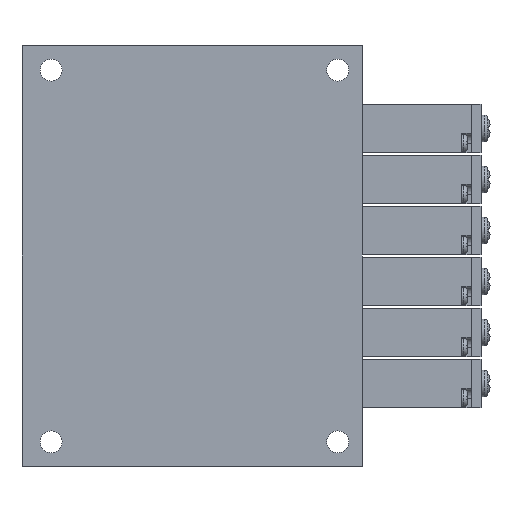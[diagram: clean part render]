
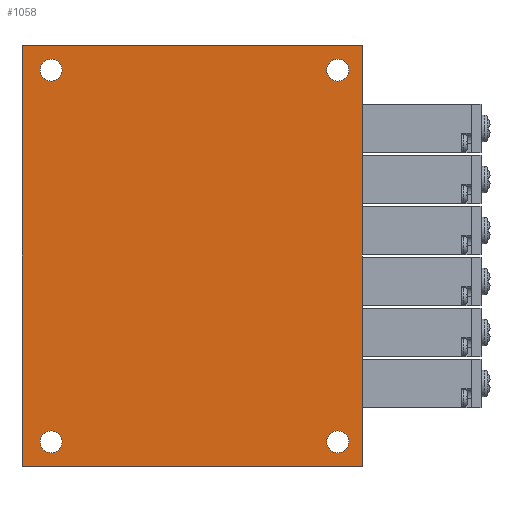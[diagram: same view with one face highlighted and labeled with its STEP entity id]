
A CAD part, front view. The second image highlights one B-rep face of the part: STEP entity #1058.
In plain terms, the highlighted planar face has unit normal (0, -1, 0) as drawn and (0, 0, 1) by its records, which use the part's own axes.
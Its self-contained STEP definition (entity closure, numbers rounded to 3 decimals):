
#1058=ADVANCED_FACE('',(#2150,#2151,#2152,#2153,#2154),#2155,.T.);
#2150=FACE_BOUND('',#3777,.T.);
#2151=FACE_BOUND('',#3778,.T.);
#2152=FACE_BOUND('',#3779,.T.);
#2153=FACE_BOUND('',#3780,.T.);
#2154=FACE_OUTER_BOUND('',#3781,.T.);
#2155=PLANE('',#3782);
#3777=EDGE_LOOP('',(#7057));
#3778=EDGE_LOOP('',(#7058));
#3779=EDGE_LOOP('',(#7059));
#3780=EDGE_LOOP('',(#7060));
#3781=EDGE_LOOP('',(#7061,#7062,#7063,#7064));
#3782=AXIS2_PLACEMENT_3D('',#7065,#7066,#7067);
#7057=ORIENTED_EDGE('',*,*,#11065,.F.);
#7058=ORIENTED_EDGE('',*,*,#11066,.T.);
#7059=ORIENTED_EDGE('',*,*,#11067,.F.);
#7060=ORIENTED_EDGE('',*,*,#11060,.T.);
#7061=ORIENTED_EDGE('',*,*,#11068,.T.);
#7062=ORIENTED_EDGE('',*,*,#11069,.T.);
#7063=ORIENTED_EDGE('',*,*,#11056,.T.);
#7064=ORIENTED_EDGE('',*,*,#11070,.T.);
#7065=CARTESIAN_POINT('',(-43.25,-35.0,25.889));
#7066=DIRECTION('',(0.0,0.0,1.0));
#7067=DIRECTION('',(1.0,0.0,0.0));
#11056=EDGE_CURVE('',#13294,#13292,#13295,.T.);
#11060=EDGE_CURVE('',#13301,#13301,#13302,.T.);
#11065=EDGE_CURVE('',#13311,#13311,#13312,.T.);
#11066=EDGE_CURVE('',#13313,#13313,#13314,.T.);
#11067=EDGE_CURVE('',#13315,#13315,#13316,.T.);
#11068=EDGE_CURVE('',#13317,#13318,#13319,.T.);
#11069=EDGE_CURVE('',#13318,#13294,#13320,.T.);
#11070=EDGE_CURVE('',#13292,#13317,#13321,.T.);
#13292=VERTEX_POINT('',#17072);
#13294=VERTEX_POINT('',#17075);
#13295=LINE('',#17076,#17077);
#13301=VERTEX_POINT('',#17084);
#13302=CIRCLE('',#17085,2.25);
#13311=VERTEX_POINT('',#17094);
#13312=CIRCLE('',#17095,2.25);
#13313=VERTEX_POINT('',#17096);
#13314=CIRCLE('',#17097,2.25);
#13315=VERTEX_POINT('',#17098);
#13316=CIRCLE('',#17099,2.25);
#13317=VERTEX_POINT('',#17100);
#13318=VERTEX_POINT('',#17101);
#13319=LINE('',#17102,#17103);
#13320=LINE('',#17104,#17105);
#13321=LINE('',#17106,#17107);
#17072=CARTESIAN_POINT('',(43.25,35.0,25.889));
#17075=CARTESIAN_POINT('',(43.25,-35.0,25.889));
#17076=CARTESIAN_POINT('',(43.25,-35.0,25.889));
#17077=VECTOR('',#20889,1.0);
#17084=CARTESIAN_POINT('',(-40.5,-29.0,25.889));
#17085=AXIS2_PLACEMENT_3D('',#20897,#20898,#20899);
#17094=CARTESIAN_POINT('',(40.5,30.0,25.889));
#17095=AXIS2_PLACEMENT_3D('',#20912,#20913,#20914);
#17096=CARTESIAN_POINT('',(-40.5,30.0,25.889));
#17097=AXIS2_PLACEMENT_3D('',#20915,#20916,#20917);
#17098=CARTESIAN_POINT('',(40.5,-29.0,25.889));
#17099=AXIS2_PLACEMENT_3D('',#20918,#20919,#20920);
#17100=CARTESIAN_POINT('',(-43.25,35.0,25.889));
#17101=CARTESIAN_POINT('',(-43.25,-35.0,25.889));
#17102=CARTESIAN_POINT('',(-43.25,35.0,25.889));
#17103=VECTOR('',#20921,1.0);
#17104=CARTESIAN_POINT('',(-43.25,-35.0,25.889));
#17105=VECTOR('',#20922,1.0);
#17106=CARTESIAN_POINT('',(43.25,35.0,25.889));
#17107=VECTOR('',#20923,1.0);
#20889=DIRECTION('',(0.0,1.0,0.0));
#20897=CARTESIAN_POINT('',(-38.25,-29.0,25.889));
#20898=DIRECTION('',(0.0,0.0,-1.0));
#20899=DIRECTION('',(-1.0,0.0,0.0));
#20912=CARTESIAN_POINT('',(38.25,30.0,25.889));
#20913=DIRECTION('',(0.0,0.0,1.0));
#20914=DIRECTION('',(1.0,0.0,0.0));
#20915=CARTESIAN_POINT('',(-38.25,30.0,25.889));
#20916=DIRECTION('',(0.0,0.0,-1.0));
#20917=DIRECTION('',(-1.0,0.0,0.0));
#20918=CARTESIAN_POINT('',(38.25,-29.0,25.889));
#20919=DIRECTION('',(0.0,0.0,1.0));
#20920=DIRECTION('',(1.0,0.0,0.0));
#20921=DIRECTION('',(0.0,-1.0,0.0));
#20922=DIRECTION('',(1.0,0.0,0.0));
#20923=DIRECTION('',(-1.0,0.0,0.0));
